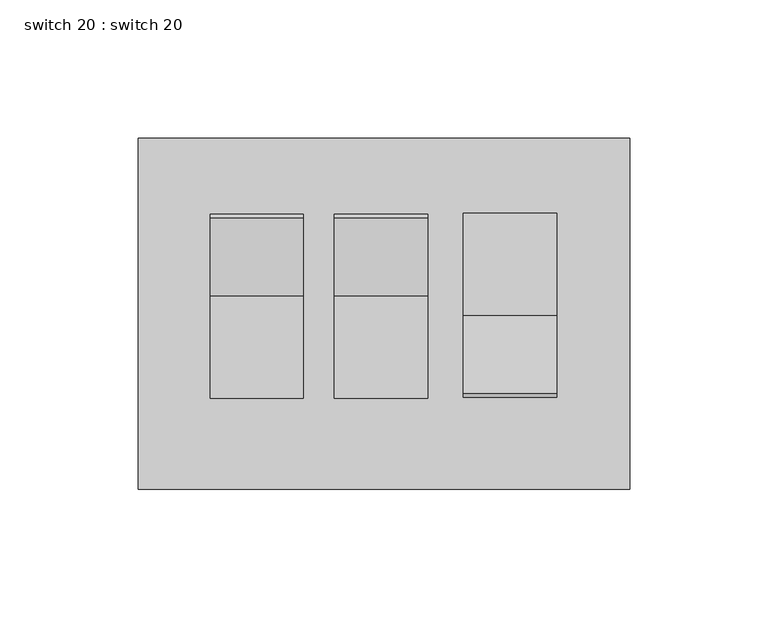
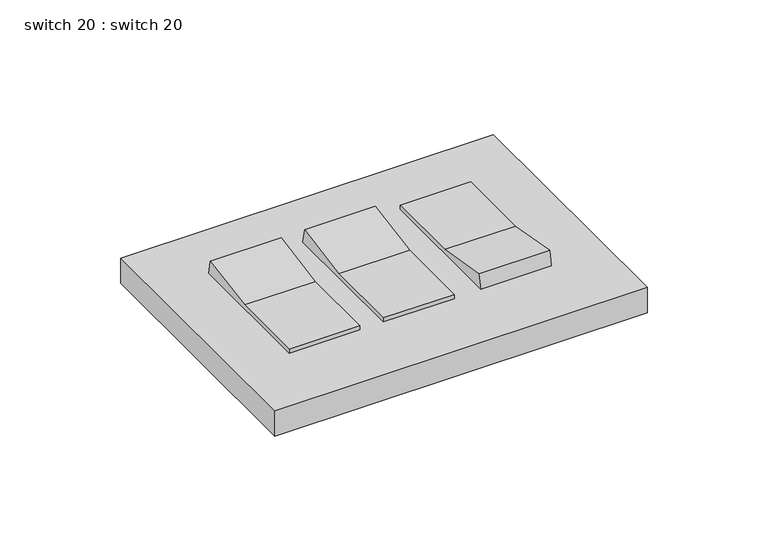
"""IFC4 building model written with IfcOpenShell, lengths in millimetres: proxy geometry, switch 20 : switch 20."""

from ifc_helpers import new_model, si_unit, frame, origin, origin_with_axes, place, context, project, spatial, polyline, outline, extrude, source, transform, mapped, element, save


def switch_20_switch_20_6c98c90f(model_context):
    return source(origin(), model_context, "Body", "SweptSolid", [
        extrude(outline(polyline([(33.3205774, 12.7), (34.6869839, 19.7295524), (63.0548946, 14.7268688), (99.8235339, 14.7268688), (99.8235339, 12.7), (33.3205774, 12.7)])), frame((28.6949646, 0.0, 0.0), z_axis=(1.0, 0.0, 0.0), x_axis=(0.0, 1.0, 0.0)), (0.0, 0.0, 1.0), 33.742033),
        extrude(outline(polyline([(99.4536931, 12.7), (32.9507366, 12.7), (32.9507366, 14.7268688), (69.7945844, 14.7268688), (98.0897792, 19.716729), (99.4536931, 12.7)])), frame((-17.9154677, 0.0, 0.0), z_axis=(1.0, 0.0, 0.0), x_axis=(0.0, 1.0, 0.0)), (0.0, 0.0, 1.0), 33.742033),
        extrude(outline(polyline([(99.4536931, 12.7), (32.9507366, 12.7), (32.9507366, 14.7268688), (69.7945844, 14.7268688), (98.0897792, 19.716729), (99.4536931, 12.7)])), frame((-62.9154677, 0.0, 0.0), z_axis=(1.0, 0.0, 0.0), x_axis=(0.0, 1.0, 0.0)), (0.0, 0.0, 1.0), 33.742033),
        extrude(outline(polyline([(-88.9, 0.0), (-88.9, 127.0), (88.9, 127.0), (88.9, 0.0), (-88.9, 0.0)])), origin_with_axes(), (0.0, 0.0, 1.0), 12.7),
    ])


if __name__ == "__main__":
    model = new_model("IFC4")
    model_context = context("Model", 3, world=origin())
    ifc_project = project(units=[si_unit("LENGTHUNIT", "METRE", prefix="MILLI")], contexts=[model_context])
    site = spatial("IfcSite", under=ifc_project)
    building = spatial("IfcBuilding", under=site)
    placement = place(None, origin())
    switch_20_switch_20_shape = switch_20_switch_20_6c98c90f(model_context)
    element("IfcBuildingElementProxy", 1, Name="switch 20 : switch 20", ObjectType="switch 20 : switch 20", at=placement, inside=building, context=model_context, shape_type="MappedRepresentation", body=[
        mapped(switch_20_switch_20_shape, transform((0.0, 0.0, 0.0), x_axis=(1.0, 0.0, 0.0), y_axis=(0.0, 1.0, 0.0), z_axis=(0.0, 0.0, 1.0))),
    ])
    save(model, "model.ifc")
